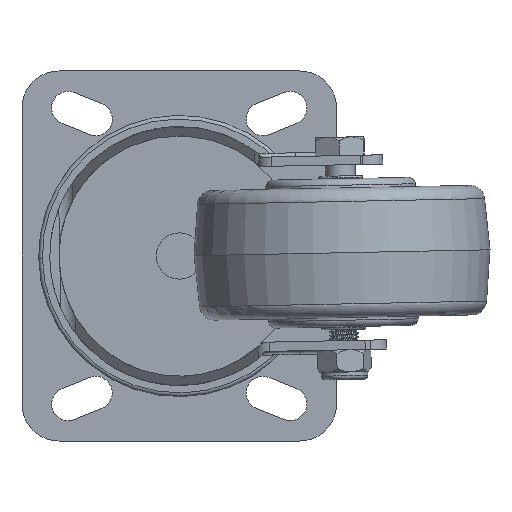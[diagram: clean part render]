
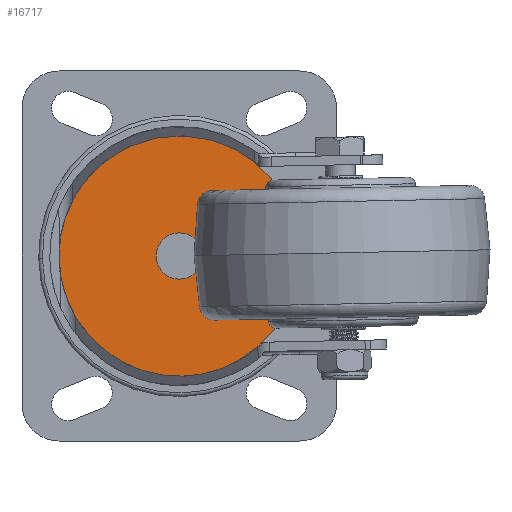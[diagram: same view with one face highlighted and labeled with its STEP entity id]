
A CAD part, front view. The second image highlights one B-rep face of the part: STEP entity #16717.
In plain terms, the highlighted planar face has unit normal (0, -1, 0) as drawn and (0, 1, 0) by its records, which use the part's own axes.
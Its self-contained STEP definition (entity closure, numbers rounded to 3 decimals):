
#3100 = FACE_BOUND ( 'NONE', #11729, .T. ) ;
#4029 = ORIENTED_EDGE ( 'NONE', *, *, #18196, .F. ) ;
#5117 = AXIS2_PLACEMENT_3D ( 'NONE', #25958, #42827, #21817 ) ;
#5986 = CIRCLE ( 'NONE', #5117, 6. ) ;
#6719 = ORIENTED_EDGE ( 'NONE', *, *, #21037, .F. ) ;
#6855 = CARTESIAN_POINT ( 'NONE',  ( 0., 2.5, -6. ) ) ;
#7604 = CARTESIAN_POINT ( 'NONE',  ( 0., 2.5, 32.5 ) ) ;
#7896 = VERTEX_POINT ( 'NONE', #44104 ) ;
#8409 = EDGE_CURVE ( 'NONE', #14862, #22079, #50527, .T. ) ;
#11729 = EDGE_LOOP ( 'NONE', ( #4029, #6719 ) ) ;
#11817 = EDGE_LOOP ( 'NONE', ( #28934, #42741 ) ) ;
#13426 = AXIS2_PLACEMENT_3D ( 'NONE', #32082, #44521, #52832 ) ;
#14862 = VERTEX_POINT ( 'NONE', #31258 ) ;
#16717 = ADVANCED_FACE ( 'NONE', ( #3100, #23868 ), #36606, .T. ) ;
#18196 = EDGE_CURVE ( 'NONE', #43000, #7896, #42958, .T. ) ;
#19116 = AXIS2_PLACEMENT_3D ( 'NONE', #50966, #22457, #39325 ) ;
#19941 = AXIS2_PLACEMENT_3D ( 'NONE', #33001, #27731, #27462 ) ;
#20267 = DIRECTION ( 'NONE',  ( 0., 1., 0. ) ) ;
#21037 = EDGE_CURVE ( 'NONE', #7896, #43000, #5986, .T. ) ;
#21817 = DIRECTION ( 'NONE',  ( 0., 0., 1. ) ) ;
#22079 = VERTEX_POINT ( 'NONE', #7604 ) ;
#22457 = DIRECTION ( 'NONE',  ( 0., 1., 0. ) ) ;
#23868 = FACE_OUTER_BOUND ( 'NONE', #11817, .T. ) ;
#24118 = EDGE_CURVE ( 'NONE', #22079, #14862, #34398, .T. ) ;
#25958 = CARTESIAN_POINT ( 'NONE',  ( 0., 2.5, 0. ) ) ;
#27462 = DIRECTION ( 'NONE',  ( 0., 0., 1. ) ) ;
#27731 = DIRECTION ( 'NONE',  ( 0., 1., 0. ) ) ;
#28934 = ORIENTED_EDGE ( 'NONE', *, *, #8409, .T. ) ;
#31258 = CARTESIAN_POINT ( 'NONE',  ( 0., 2.5, -32.5 ) ) ;
#32082 = CARTESIAN_POINT ( 'NONE',  ( 0., 2.5, 0. ) ) ;
#32986 = CARTESIAN_POINT ( 'NONE',  ( 0., 2.5, 0. ) ) ;
#33001 = CARTESIAN_POINT ( 'NONE',  ( 0., 2.5, 0. ) ) ;
#34398 = CIRCLE ( 'NONE', #47636, 32.5 ) ;
#36606 = PLANE ( 'NONE',  #19941 ) ;
#39325 = DIRECTION ( 'NONE',  ( 0., 0., 1. ) ) ;
#41004 = DIRECTION ( 'NONE',  ( 0., 0., 1. ) ) ;
#42741 = ORIENTED_EDGE ( 'NONE', *, *, #24118, .T. ) ;
#42827 = DIRECTION ( 'NONE',  ( 0., 1., 0. ) ) ;
#42958 = CIRCLE ( 'NONE', #19116, 6. ) ;
#43000 = VERTEX_POINT ( 'NONE', #6855 ) ;
#44104 = CARTESIAN_POINT ( 'NONE',  ( 0., 2.5, 6. ) ) ;
#44521 = DIRECTION ( 'NONE',  ( 0., 1., 0. ) ) ;
#47636 = AXIS2_PLACEMENT_3D ( 'NONE', #32986, #20267, #41004 ) ;
#50527 = CIRCLE ( 'NONE', #13426, 32.5 ) ;
#50966 = CARTESIAN_POINT ( 'NONE',  ( 0., 2.5, 0. ) ) ;
#52832 = DIRECTION ( 'NONE',  ( 0., 0., 1. ) ) ;
